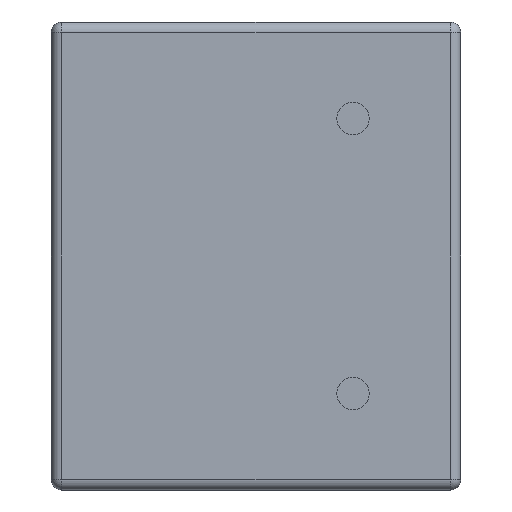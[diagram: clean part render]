
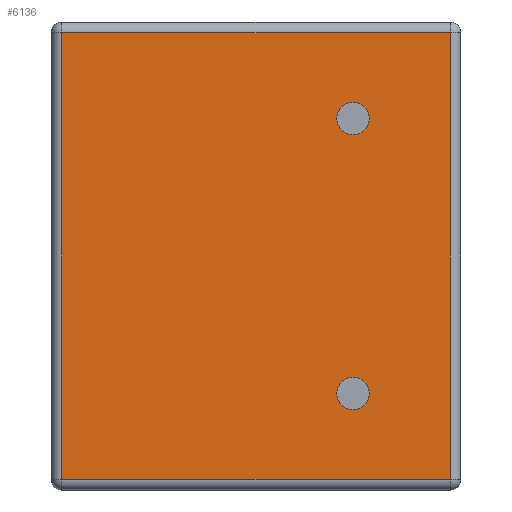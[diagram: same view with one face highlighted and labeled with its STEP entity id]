
A CAD part, front view. The second image highlights one B-rep face of the part: STEP entity #6136.
In plain terms, the highlighted planar face has unit normal (0, -1, 0).
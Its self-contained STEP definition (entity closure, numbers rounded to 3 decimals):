
#121=DIRECTION('',(0.,0.,-1.));
#122=VECTOR('',#121,41.4);
#123=CARTESIAN_POINT('',(-18.,0.,20.7));
#124=LINE('',#123,#122);
#125=DIRECTION('',(-1.,0.,0.));
#126=VECTOR('',#125,36.);
#127=CARTESIAN_POINT('',(18.,0.,20.7));
#128=LINE('',#127,#126);
#129=DIRECTION('',(0.,0.,1.));
#130=VECTOR('',#129,41.4);
#131=CARTESIAN_POINT('',(18.,0.,-20.7));
#132=LINE('',#131,#130);
#133=DIRECTION('',(1.,0.,0.));
#134=VECTOR('',#133,36.);
#135=CARTESIAN_POINT('',(-18.,0.,-20.7));
#136=LINE('',#135,#134);
#137=CARTESIAN_POINT('',(9.,0.,12.75));
#138=DIRECTION('',(0.,-1.,0.));
#139=DIRECTION('',(1.,0.,0.));
#140=AXIS2_PLACEMENT_3D('',#137,#138,#139);
#142=CARTESIAN_POINT('',(9.,0.,12.75));
#143=DIRECTION('',(0.,-1.,0.));
#144=DIRECTION('',(-1.,0.,0.));
#145=AXIS2_PLACEMENT_3D('',#142,#143,#144);
#147=CARTESIAN_POINT('',(9.,0.,-12.75));
#148=DIRECTION('',(0.,-1.,0.));
#149=DIRECTION('',(1.,0.,0.));
#150=AXIS2_PLACEMENT_3D('',#147,#148,#149);
#152=CARTESIAN_POINT('',(9.,0.,-12.75));
#153=DIRECTION('',(0.,-1.,0.));
#154=DIRECTION('',(-1.,0.,0.));
#155=AXIS2_PLACEMENT_3D('',#152,#153,#154);
#4687=CARTESIAN_POINT('',(-18.,0.,20.7));
#4688=CARTESIAN_POINT('',(-18.,0.,-20.7));
#4689=VERTEX_POINT('',#4687);
#4690=VERTEX_POINT('',#4688);
#4695=CARTESIAN_POINT('',(18.,0.,-20.7));
#4696=VERTEX_POINT('',#4695);
#4701=CARTESIAN_POINT('',(18.,0.,20.7));
#4702=VERTEX_POINT('',#4701);
#6101=CARTESIAN_POINT('',(10.5,0.,12.75));
#6102=CARTESIAN_POINT('',(7.5,0.,12.75));
#6103=VERTEX_POINT('',#6101);
#6104=VERTEX_POINT('',#6102);
#6105=CARTESIAN_POINT('',(10.5,0.,-12.75));
#6106=CARTESIAN_POINT('',(7.5,0.,-12.75));
#6107=VERTEX_POINT('',#6105);
#6108=VERTEX_POINT('',#6106);
#6109=CARTESIAN_POINT('',(0.,0.,0.));
#6110=DIRECTION('',(0.,1.,0.));
#6111=DIRECTION('',(1.,0.,0.));
#6112=AXIS2_PLACEMENT_3D('',#6109,#6110,#6111);
#6113=PLANE('',#6112);
#6115=ORIENTED_EDGE('',*,*,#6114,.F.);
#6117=ORIENTED_EDGE('',*,*,#6116,.F.);
#6119=ORIENTED_EDGE('',*,*,#6118,.F.);
#6121=ORIENTED_EDGE('',*,*,#6120,.F.);
#6122=EDGE_LOOP('',(#6115,#6117,#6119,#6121));
#6123=FACE_OUTER_BOUND('',#6122,.F.);
#6125=ORIENTED_EDGE('',*,*,#6124,.T.);
#6127=ORIENTED_EDGE('',*,*,#6126,.T.);
#6128=EDGE_LOOP('',(#6125,#6127));
#6129=FACE_BOUND('',#6128,.F.);
#6131=ORIENTED_EDGE('',*,*,#6130,.T.);
#6133=ORIENTED_EDGE('',*,*,#6132,.T.);
#6134=EDGE_LOOP('',(#6131,#6133));
#6135=FACE_BOUND('',#6134,.F.);
#141=CIRCLE('',#140,1.5);
#146=CIRCLE('',#145,1.5);
#151=CIRCLE('',#150,1.5);
#156=CIRCLE('',#155,1.5);
#6114=EDGE_CURVE('',#4689,#4690,#124,.T.);
#6116=EDGE_CURVE('',#4702,#4689,#128,.T.);
#6118=EDGE_CURVE('',#4696,#4702,#132,.T.);
#6120=EDGE_CURVE('',#4690,#4696,#136,.T.);
#6124=EDGE_CURVE('',#6103,#6104,#141,.T.);
#6126=EDGE_CURVE('',#6104,#6103,#146,.T.);
#6130=EDGE_CURVE('',#6107,#6108,#151,.T.);
#6132=EDGE_CURVE('',#6108,#6107,#156,.T.);
#6136=ADVANCED_FACE('',(#6123,#6129,#6135),#6113,.F.);
